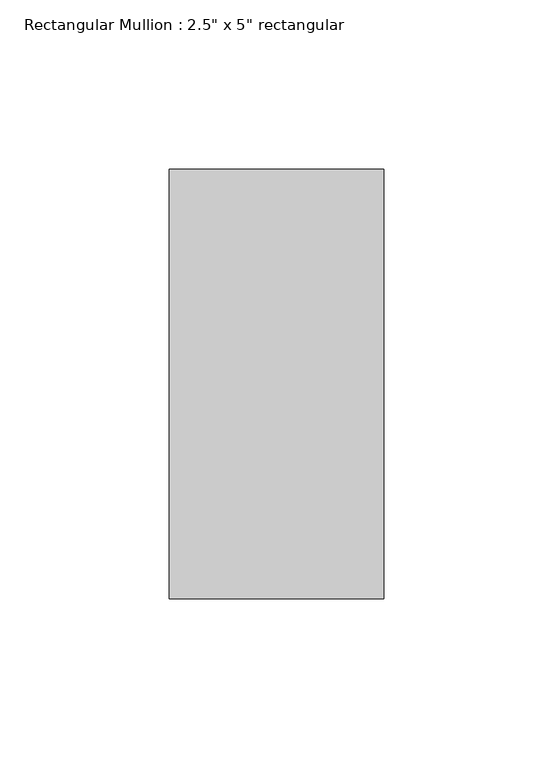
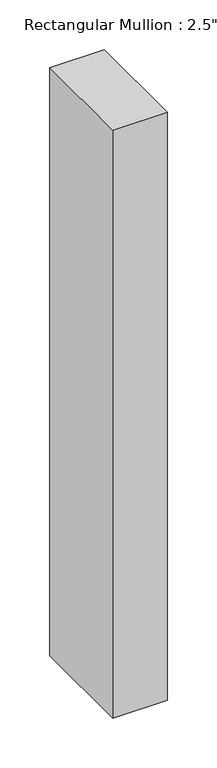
"""IFC4 building model written with IfcOpenShell, lengths in millimetres: member geometry."""

from ifc_helpers import new_model, si_unit, frame, origin, place, context, project, spatial, polyline, outline, extrude, source, transform, mapped, element, save


def member_3251410a(model_context):
    return source(origin(), model_context, "Body", "SweptSolid", [
        extrude(outline(polyline([(0.0, 63.5), (0.0, -63.5), (-63.5, -63.5), (-63.5, 63.5), (0.0, 63.5)])), frame((0.0, 0.0, -723.9), z_axis=(0.0, 0.0, 1.0), x_axis=(1.0, 0.0, 0.0)), (0.0, 0.0, 1.0), 723.9),
    ])


if __name__ == "__main__":
    model = new_model("IFC4")
    model_context = context("Model", 3, world=origin())
    ifc_project = project(units=[si_unit("LENGTHUNIT", "METRE", prefix="MILLI")], contexts=[model_context])
    site = spatial("IfcSite", under=ifc_project)
    building = spatial("IfcBuilding", under=site)
    placement = place(None, origin())
    member_shape = member_3251410a(model_context)
    element("IfcMember", 1, ObjectType="Rectangular Mullion : 2.5\" x 5\" rectangular", at=placement, inside=building, context=model_context, shape_type="MappedRepresentation", body=[
        mapped(member_shape, transform((0.0, 0.0, 0.0), x_axis=(1.0, 0.0, 0.0), y_axis=(0.0, 1.0, 0.0), z_axis=(0.0, 0.0, 1.0))),
    ])
    save(model, "model.ifc")
